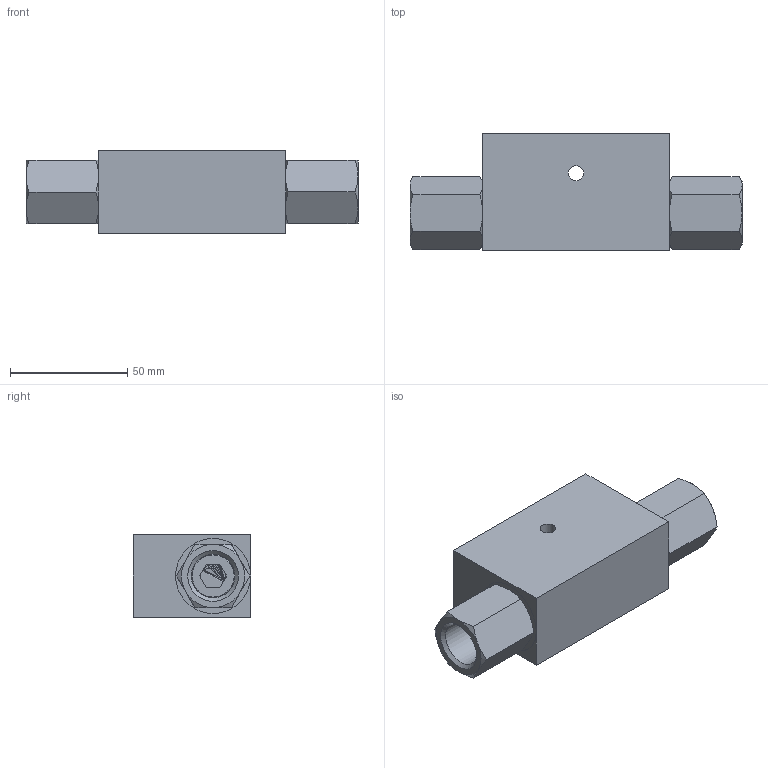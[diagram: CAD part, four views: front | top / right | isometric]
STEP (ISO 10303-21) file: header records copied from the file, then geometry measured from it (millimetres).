
FILE_DESCRIPTION(/* description */ (''),/* implementation_level */ '2;1');
FILE_NAME(/* name */ 'C:\Users\fabio.radici.LUEN\Desktop\003-032-AJ0-A_Shrinkwrap.stp',/* time_stamp */ '2020-05-28T14:18:57+02:00',/* author */ ('Fabio Radici'),/* organization */ (''),/* preprocessor_version */ 'ST-DEVELOPER v18',/* originating_system */ 'Autodesk Inventor 2020',/* authorisation */ '');
FILE_SCHEMA (('AUTOMOTIVE_DESIGN { 1 0 10303 214 3 1 1 }'));
Length unit declared in the file: millimetre
Products named in the file (1): 003-032-AJ0-A_Shrinkwrap
Bounding box: 141.6 x 50 x 35 mm (x, y, z)
Surface area: 36120.4 mm2 (no closed solid volume)
Topology: 0 solids, 13 shells, 102 faces, 311 edges, 209 vertices
Faces by surface type: cone 38, plane 30, cylinder 28, bspline 4, torus 2
Full cylindrical faces by diameter (mm): 5 x8, 6.5 x1, 7 x2, 8 x4, 18.631 x4, 22 x1, 22.376 x2, 30 x2
Entity records: 7763 total; most frequent: CARTESIAN_POINT 4993, ORIENTED_EDGE 548, DIRECTION 510, EDGE_CURVE 311, AXIS2_PLACEMENT_3D 214, VERTEX_POINT 209, EDGE_LOOP 116, CIRCLE 115
